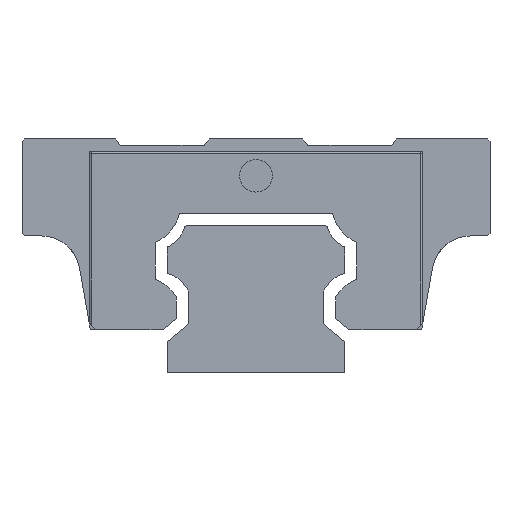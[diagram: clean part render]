
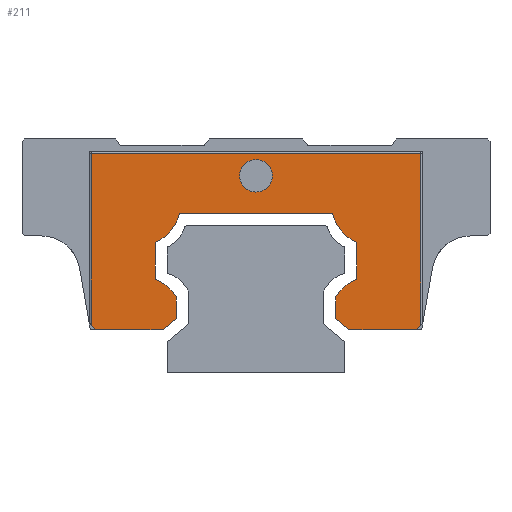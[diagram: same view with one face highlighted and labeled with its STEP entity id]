
A CAD part, left-side view. The second image highlights one B-rep face of the part: STEP entity #211.
In plain terms, the highlighted planar face has unit normal (-1, 0, 0).
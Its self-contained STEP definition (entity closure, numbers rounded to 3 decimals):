
#47=FACE_BOUND('',#526,.T.);
#48=FACE_BOUND('',#527,.T.);
#211=ADVANCED_FACE('',(#47,#48),#342,.T.);
#342=PLANE('',#2352);
#526=EDGE_LOOP('',(#1199));
#527=EDGE_LOOP('',(#1200,#1201,#1202,#1203,#1204,#1205,#1206,#1207,#1208,
#1209,#1210,#1211,#1212,#1213,#1214,#1215,#1216,#1217));
#698=LINE('',#3259,#902);
#704=LINE('',#3275,#908);
#707=LINE('',#3281,#911);
#714=LINE('',#3295,#918);
#715=LINE('',#3305,#919);
#728=LINE('',#3332,#932);
#737=LINE('',#3352,#941);
#740=LINE('',#3358,#944);
#745=LINE('',#3367,#949);
#753=LINE('',#3384,#957);
#760=LINE('',#3399,#964);
#761=LINE('',#3403,#965);
#762=LINE('',#3405,#966);
#763=LINE('',#3407,#967);
#902=VECTOR('',#2582,1.);
#908=VECTOR('',#2596,1.);
#911=VECTOR('',#2601,1.);
#918=VECTOR('',#2610,1.);
#919=VECTOR('',#2615,1.);
#932=VECTOR('',#2636,1.);
#941=VECTOR('',#2649,1.);
#944=VECTOR('',#2654,1.);
#949=VECTOR('',#2661,1.);
#957=VECTOR('',#2675,1.);
#964=VECTOR('',#2688,1.);
#965=VECTOR('',#2693,1.);
#966=VECTOR('',#2694,1.);
#967=VECTOR('',#2695,1.);
#1199=ORIENTED_EDGE('',*,*,#2002,.F.);
#1200=ORIENTED_EDGE('',*,*,#1953,.T.);
#1201=ORIENTED_EDGE('',*,*,#2003,.T.);
#1202=ORIENTED_EDGE('',*,*,#2004,.T.);
#1203=ORIENTED_EDGE('',*,*,#2005,.T.);
#1204=ORIENTED_EDGE('',*,*,#1966,.T.);
#1205=ORIENTED_EDGE('',*,*,#1976,.T.);
#1206=ORIENTED_EDGE('',*,*,#1979,.T.);
#1207=ORIENTED_EDGE('',*,*,#1984,.T.);
#1208=ORIENTED_EDGE('',*,*,#1986,.T.);
#1209=ORIENTED_EDGE('',*,*,#1993,.T.);
#1210=ORIENTED_EDGE('',*,*,#1995,.T.);
#1211=ORIENTED_EDGE('',*,*,#2001,.T.);
#1212=ORIENTED_EDGE('',*,*,#1924,.T.);
#1213=ORIENTED_EDGE('',*,*,#1932,.T.);
#1214=ORIENTED_EDGE('',*,*,#1935,.T.);
#1215=ORIENTED_EDGE('',*,*,#1940,.T.);
#1216=ORIENTED_EDGE('',*,*,#1943,.T.);
#1217=ORIENTED_EDGE('',*,*,#1950,.T.);
#1717=VERTEX_POINT('',#3242);
#1718=VERTEX_POINT('',#3244);
#1724=VERTEX_POINT('',#3258);
#1726=VERTEX_POINT('',#3264);
#1730=VERTEX_POINT('',#3274);
#1732=VERTEX_POINT('',#3280);
#1738=VERTEX_POINT('',#3294);
#1741=VERTEX_POINT('',#3304);
#1752=VERTEX_POINT('',#3333);
#1753=VERTEX_POINT('',#3334);
#1760=VERTEX_POINT('',#3351);
#1762=VERTEX_POINT('',#3357);
#1765=VERTEX_POINT('',#3366);
#1766=VERTEX_POINT('',#3370);
#1771=VERTEX_POINT('',#3383);
#1772=VERTEX_POINT('',#3387);
#1777=VERTEX_POINT('',#3402);
#1778=VERTEX_POINT('',#3404);
#1779=VERTEX_POINT('',#3406);
#1924=EDGE_CURVE('',#1718,#1717,#2228,.T.);
#1932=EDGE_CURVE('',#1717,#1724,#698,.T.);
#1935=EDGE_CURVE('',#1724,#1726,#2230,.T.);
#1940=EDGE_CURVE('',#1726,#1730,#704,.T.);
#1943=EDGE_CURVE('',#1730,#1732,#707,.T.);
#1950=EDGE_CURVE('',#1732,#1738,#714,.T.);
#1953=EDGE_CURVE('',#1738,#1741,#715,.T.);
#1966=EDGE_CURVE('',#1752,#1753,#728,.T.);
#1976=EDGE_CURVE('',#1753,#1760,#737,.T.);
#1979=EDGE_CURVE('',#1760,#1762,#740,.T.);
#1984=EDGE_CURVE('',#1762,#1765,#745,.T.);
#1986=EDGE_CURVE('',#1765,#1766,#2231,.T.);
#1993=EDGE_CURVE('',#1766,#1771,#753,.T.);
#1995=EDGE_CURVE('',#1771,#1772,#2232,.T.);
#2001=EDGE_CURVE('',#1772,#1718,#760,.T.);
#2002=EDGE_CURVE('',#1777,#1777,#2233,.T.);
#2003=EDGE_CURVE('',#1741,#1778,#761,.T.);
#2004=EDGE_CURVE('',#1778,#1779,#762,.T.);
#2005=EDGE_CURVE('',#1779,#1752,#763,.T.);
#2228=CIRCLE('',#2326,13.145);
#2230=CIRCLE('',#2330,13.145);
#2231=CIRCLE('',#2345,13.145);
#2232=CIRCLE('',#2348,13.145);
#2233=CIRCLE('',#2351,4.864);
#2326=AXIS2_PLACEMENT_3D('',#3243,#2571,#2572);
#2330=AXIS2_PLACEMENT_3D('',#3265,#2588,#2589);
#2345=AXIS2_PLACEMENT_3D('',#3371,#2665,#2666);
#2348=AXIS2_PLACEMENT_3D('',#3388,#2679,#2680);
#2351=AXIS2_PLACEMENT_3D('',#3401,#2691,#2692);
#2352=AXIS2_PLACEMENT_3D('',#3408,#2696,#2697);
#2571=DIRECTION('',(-1.,0.,0.));
#2572=DIRECTION('',(0.,1.,0.));
#2582=DIRECTION('',(0.,0.,-1.));
#2588=DIRECTION('',(-1.,0.,0.));
#2589=DIRECTION('',(0.,1.,0.));
#2596=DIRECTION('',(0.,0.,-1.));
#2601=DIRECTION('',(0.,-0.766,-0.643));
#2610=DIRECTION('',(0.,-1.,0.));
#2615=DIRECTION('',(0.,-0.707,0.707));
#2636=DIRECTION('',(0.,-0.707,-0.707));
#2649=DIRECTION('',(0.,-1.,0.));
#2654=DIRECTION('',(0.,-0.766,0.643));
#2661=DIRECTION('',(0.,0.,1.));
#2665=DIRECTION('',(-1.,0.,0.));
#2666=DIRECTION('',(0.,-1.,0.));
#2675=DIRECTION('',(0.,0.,1.));
#2679=DIRECTION('',(-1.,0.,0.));
#2680=DIRECTION('',(0.,-1.,0.));
#2688=DIRECTION('',(0.,-1.,0.));
#2691=DIRECTION('',(-1.,0.,0.));
#2692=DIRECTION('',(0.,1.,0.));
#2693=DIRECTION('',(0.,0.,1.));
#2694=DIRECTION('',(0.,1.,0.));
#2695=DIRECTION('',(0.,0.,-1.));
#2696=DIRECTION('',(-1.,0.,0.));
#2697=DIRECTION('',(0.,0.,1.));
#3242=CARTESIAN_POINT('',(-81.,-30.125,39.003));
#3243=CARTESIAN_POINT('',(-81.,-35.608,50.95));
#3244=CARTESIAN_POINT('',(-81.,-22.89,47.625));
#3258=CARTESIAN_POINT('',(-81.,-30.125,28.054));
#3259=CARTESIAN_POINT('',(-81.,-30.125,39.003));
#3264=CARTESIAN_POINT('',(-81.,-23.809,22.754));
#3265=CARTESIAN_POINT('',(-81.,-34.99,15.842));
#3274=CARTESIAN_POINT('',(-81.,-23.809,16.357));
#3275=CARTESIAN_POINT('',(-81.,-23.809,22.754));
#3280=CARTESIAN_POINT('',(-81.,-27.809,13.));
#3281=CARTESIAN_POINT('',(-81.,-23.809,16.357));
#3294=CARTESIAN_POINT('',(-81.,-47.906,13.));
#3295=CARTESIAN_POINT('',(-81.,-27.809,13.));
#3304=CARTESIAN_POINT('',(-81.,-49.212,14.306));
#3305=CARTESIAN_POINT('',(-81.,-47.906,13.));
#3332=CARTESIAN_POINT('',(-81.,49.912,15.));
#3333=CARTESIAN_POINT('',(-81.,49.212,14.3));
#3334=CARTESIAN_POINT('',(-81.,47.912,13.));
#3351=CARTESIAN_POINT('',(-81.,27.809,13.));
#3352=CARTESIAN_POINT('',(-81.,47.912,13.));
#3357=CARTESIAN_POINT('',(-81.,23.809,16.357));
#3358=CARTESIAN_POINT('',(-81.,27.809,13.));
#3366=CARTESIAN_POINT('',(-81.,23.809,22.754));
#3367=CARTESIAN_POINT('',(-81.,23.809,16.357));
#3370=CARTESIAN_POINT('',(-81.,30.125,28.054));
#3371=CARTESIAN_POINT('',(-81.,34.99,15.842));
#3383=CARTESIAN_POINT('',(-81.,30.125,39.003));
#3384=CARTESIAN_POINT('',(-81.,30.125,28.054));
#3387=CARTESIAN_POINT('',(-81.,22.89,47.625));
#3388=CARTESIAN_POINT('',(-81.,35.608,50.95));
#3399=CARTESIAN_POINT('',(-81.,22.89,47.625));
#3401=CARTESIAN_POINT('',(-81.,0.,59.));
#3402=CARTESIAN_POINT('',(-81.,4.864,59.));
#3403=CARTESIAN_POINT('',(-81.,-49.212,66.375));
#3404=CARTESIAN_POINT('',(-81.,-49.212,65.675));
#3405=CARTESIAN_POINT('',(-81.,49.912,65.675));
#3406=CARTESIAN_POINT('',(-81.,49.212,65.675));
#3407=CARTESIAN_POINT('',(-81.,49.212,15.));
#3408=CARTESIAN_POINT('',(-81.,-35.608,50.95));
